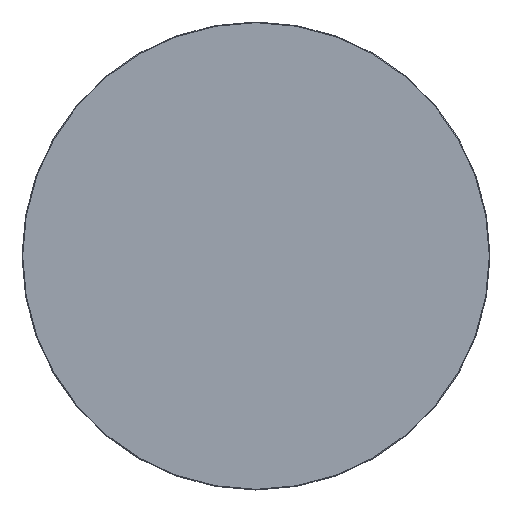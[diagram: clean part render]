
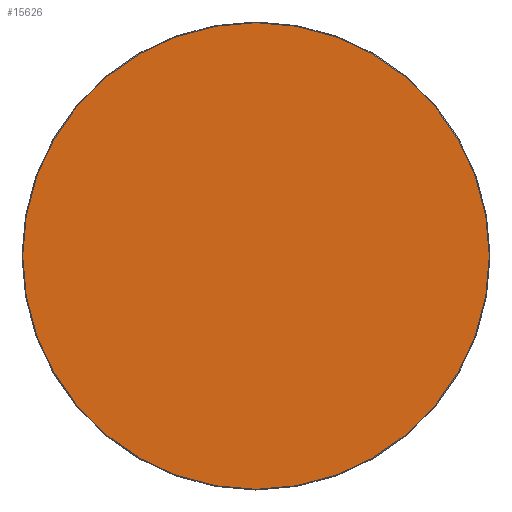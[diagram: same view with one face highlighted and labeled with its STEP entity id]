
A CAD part, top view. The second image highlights one B-rep face of the part: STEP entity #15626.
In plain terms, the highlighted planar face has unit normal (0, 0, 1).
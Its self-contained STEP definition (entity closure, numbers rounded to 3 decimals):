
#15551=CARTESIAN_POINT('',(0.,0.,20.));
#15552=DIRECTION('',(1.,0.,0.));
#15553=DIRECTION('',(0.,0.,1.));
#15554=AXIS2_PLACEMENT_3D('',#15551,#15553,#15552);
#15555=PLANE('',#15554);
#15556=CARTESIAN_POINT('',(-0.5,-498.5,20.));
#15557=VERTEX_POINT('',#15556);
#15558=CARTESIAN_POINT('',(0.5,-498.5,20.));
#15559=VERTEX_POINT('',#15558);
#15560=CARTESIAN_POINT('',(-0.5,-498.5,20.));
#15561=DIRECTION('',(1.,0.,0.));
#15562=VECTOR('',#15561,1.);
#15563=LINE('',#15560,#15562);
#15564=EDGE_CURVE('',#15557,#15559,#15563,.T.);
#15565=ORIENTED_EDGE('E105',*,*,#15564,.T.);
#15566=CARTESIAN_POINT('',(498.5,-0.5,20.));
#15567=VERTEX_POINT('',#15566);
#15568=CARTESIAN_POINT('',(0.5,-0.5,20.));
#15569=DIRECTION('',(0.,-1.,0.));
#15570=DIRECTION('',(0.,0.,1.));
#15571=AXIS2_PLACEMENT_3D('',#15568,#15570,#15569);
#15572=CIRCLE('',#15571,498.);
#15573=EDGE_CURVE('',#15559,#15567,#15572,.T.);
#15574=ORIENTED_EDGE('E107',*,*,#15573,.T.);
#15575=CARTESIAN_POINT('',(498.5,0.5,20.));
#15576=VERTEX_POINT('',#15575);
#15577=CARTESIAN_POINT('',(498.5,-0.5,20.));
#15578=DIRECTION('',(0.,1.,0.));
#15579=VECTOR('',#15578,1.);
#15580=LINE('',#15577,#15579);
#15581=EDGE_CURVE('',#15567,#15576,#15580,.T.);
#15582=ORIENTED_EDGE('E109',*,*,#15581,.T.);
#15583=CARTESIAN_POINT('',(0.5,498.5,20.));
#15584=VERTEX_POINT('',#15583);
#15585=CARTESIAN_POINT('',(0.5,0.5,20.));
#15586=DIRECTION('',(1.,0.,0.));
#15587=DIRECTION('',(0.,0.,1.));
#15588=AXIS2_PLACEMENT_3D('',#15585,#15587,#15586);
#15589=CIRCLE('',#15588,498.);
#15590=EDGE_CURVE('',#15576,#15584,#15589,.T.);
#15591=ORIENTED_EDGE('E111',*,*,#15590,.T.);
#15592=CARTESIAN_POINT('',(-0.5,498.5,20.));
#15593=VERTEX_POINT('',#15592);
#15594=CARTESIAN_POINT('',(0.5,498.5,20.));
#15595=DIRECTION('',(-1.,0.,0.));
#15596=VECTOR('',#15595,1.);
#15597=LINE('',#15594,#15596);
#15598=EDGE_CURVE('',#15584,#15593,#15597,.T.);
#15599=ORIENTED_EDGE('E113',*,*,#15598,.T.);
#15600=CARTESIAN_POINT('',(-498.5,0.5,20.));
#15601=VERTEX_POINT('',#15600);
#15602=CARTESIAN_POINT('',(-0.5,0.5,20.));
#15603=DIRECTION('',(0.,1.,0.));
#15604=DIRECTION('',(0.,0.,1.));
#15605=AXIS2_PLACEMENT_3D('',#15602,#15604,#15603);
#15606=CIRCLE('',#15605,498.);
#15607=EDGE_CURVE('',#15593,#15601,#15606,.T.);
#15608=ORIENTED_EDGE('E115',*,*,#15607,.T.);
#15609=CARTESIAN_POINT('',(-498.5,-0.5,20.));
#15610=VERTEX_POINT('',#15609);
#15611=CARTESIAN_POINT('',(-498.5,0.5,20.));
#15612=DIRECTION('',(0.,-1.,0.));
#15613=VECTOR('',#15612,1.);
#15614=LINE('',#15611,#15613);
#15615=EDGE_CURVE('',#15601,#15610,#15614,.T.);
#15616=ORIENTED_EDGE('E117',*,*,#15615,.T.);
#15617=CARTESIAN_POINT('',(-0.5,-0.5,20.));
#15618=DIRECTION('',(-1.,0.,0.));
#15619=DIRECTION('',(-0.,0.,1.));
#15620=AXIS2_PLACEMENT_3D('',#15617,#15619,#15618);
#15621=CIRCLE('',#15620,498.);
#15622=EDGE_CURVE('',#15610,#15557,#15621,.T.);
#15623=ORIENTED_EDGE('E119',*,*,#15622,.T.);
#15624=EDGE_LOOP('',(#15565,#15574,#15582,#15591,#15599,#15608,#15616,#15623));
#15625=FACE_OUTER_BOUND('',#15624,.T.);
#15626=ADVANCED_FACE('F2',(#15625),#15555,.T.);
